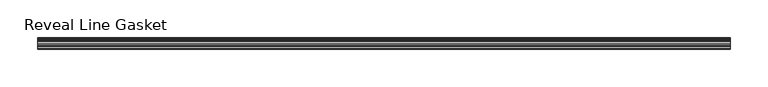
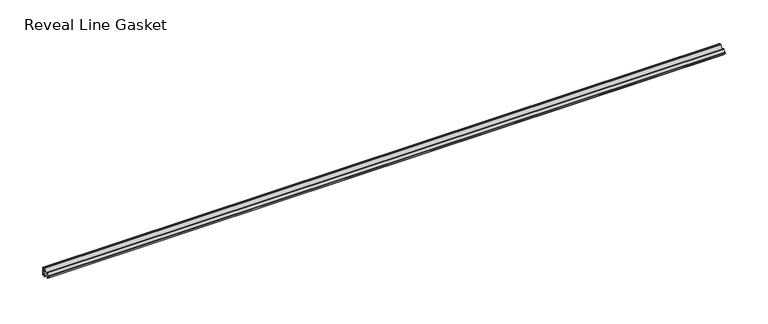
"""IFC4 building model written with IfcOpenShell, lengths in millimetres: proxy geometry, Accessories-Teknion-FHGR-AI_Healthcare-Reveal_Line_Gasket(Horizontal)-R2022 : Reveal Line Gasket."""

import ifcopenshell
import ifcopenshell.guid

model = None  # the IFC model being written
_history = None  # IfcOwnerHistory: only IFC2X3 demands one
_inside = {}  # id of a spatial element -> (the spatial element, [elements in it])
_under = {}  # id of a project, library or spatial element -> (it, [spatial elements below it])
_declared = {}  # id of a project -> (the project, [libraries it declares])
_typed = {}  # id of a type object -> (the type object, [elements of that type])
_made_of = {}  # id of a material, layer set ... -> (it, [elements and type objects made of it])


def new_model(schema):
    """Start an empty IFC model of exactly this schema.

    Asked for "IFC4X3", IfcOpenShell would pick the latest addendum, in which some entities
    have other attributes; the version numbers below select the first issue.
    IFC2X3 requires an IfcOwnerHistory on every rooted entity: one is made here for all.
    """
    global model, _history
    if schema == "IFC4X3":
        model = ifcopenshell.file(schema_version=(4, 3, 0, 0))
    else:
        model = ifcopenshell.file(schema=schema)
    _inside.clear()
    _under.clear()
    _declared.clear()
    _typed.clear()
    _made_of.clear()
    _history = None
    if model.schema == "IFC2X3":
        org = make("IfcOrganization", Name="unknown")
        user = make(
            "IfcPersonAndOrganization",
            ThePerson=make("IfcPerson", FamilyName="unknown"),
            TheOrganization=org,
        )
        app = make(
            "IfcApplication",
            ApplicationDeveloper=org,
            Version="unknown",
            ApplicationFullName="unknown",
            ApplicationIdentifier="unknown",
        )
        _history = make(
            "IfcOwnerHistory",
            OwningUser=user,
            OwningApplication=app,
            ChangeAction="ADDED",
            CreationDate=0,
        )
    return model


def make(cls, **values):
    """One entity of the class cls with the attributes given. An attribute that is None is left unset."""
    return model.create_entity(
        cls, **{name: value for name, value in values.items() if value is not None}
    )


def rooted(cls, **values):
    """An entity with a GlobalId (a new one), such as an element, a storey or a relation."""
    return make(cls, GlobalId=ifcopenshell.guid.new(), OwnerHistory=_history, **values)


def si_unit(unit_type, name, prefix=None):
    """IfcSIUnit, for example si_unit("LENGTHUNIT", "METRE", prefix="MILLI")."""
    return make("IfcSIUnit", UnitType=unit_type, Prefix=prefix, Name=name)


def assignment(units):
    """IfcUnitAssignment: the units of a project."""
    return None if units is None else make("IfcUnitAssignment", Units=units)


def point(xyz):
    """IfcCartesianPoint."""
    return None if xyz is None else make("IfcCartesianPoint", Coordinates=xyz)


def direction(xyz):
    """IfcDirection."""
    return None if xyz is None else make("IfcDirection", DirectionRatios=xyz)


def frame(location, z_axis=None, x_axis=None):
    """IfcAxis2Placement3D, a coordinate frame: its origin and axes. An axis left out is left unset."""
    return make(
        "IfcAxis2Placement3D",
        Location=point(location),
        Axis=direction(z_axis),
        RefDirection=direction(x_axis),
    )


def frame_2d(location, x_axis=None):
    """IfcAxis2Placement2D, a coordinate frame in the plane: its origin and x axis."""
    return make(
        "IfcAxis2Placement2D", Location=point(location), RefDirection=direction(x_axis)
    )


def origin():
    """The frame at (0, 0, 0) with its axes left unset."""
    return frame((0.0, 0.0, 0.0))


def place(relative_to, where):
    """IfcLocalPlacement: puts the frame where relative to a parent placement (None: the world)."""
    return make(
        "IfcLocalPlacement", PlacementRelTo=relative_to, RelativePlacement=where
    )


def context(
    kind, dimensions, precision=None, world=None, true_north=None, identifier=None
):
    """IfcGeometricRepresentationContext, for example the 3D "Model" context."""
    return make(
        "IfcGeometricRepresentationContext",
        ContextIdentifier=identifier,
        ContextType=kind,
        CoordinateSpaceDimension=dimensions,
        Precision=precision,
        WorldCoordinateSystem=world,
        TrueNorth=true_north,
    )


def project(units=None, contexts=None):
    """IfcProject with its units and contexts."""
    return rooted(
        "IfcProject",
        Name="project",
        RepresentationContexts=contexts,
        UnitsInContext=assignment(units),
    )


def spatial(cls, under=None, at=None, **own):
    """A site, building, storey or space (cls), placed at a placement, below another one or the project."""
    s = rooted(cls, ObjectPlacement=at, **own)
    if under is not None:
        _under.setdefault(under.id(), (under, []))[1].append(s)
    return s


def polyline(points):
    """IfcPolyline through the points."""
    return make("IfcPolyline", Points=[point(p) for p in points])


def circle_curve(where, radius):
    """IfcCircle in the frame where."""
    return make("IfcCircle", Position=where, Radius=radius)


def trimmed(basis, trim1, trim2, sense, master):
    """IfcTrimmedCurve: the piece of a basis curve between two trims."""
    return make(
        "IfcTrimmedCurve",
        BasisCurve=basis,
        Trim1=trim1,
        Trim2=trim2,
        SenseAgreement=sense,
        MasterRepresentation=master,
    )


def segment(curve, same_sense, transition):
    """IfcCompositeCurveSegment."""
    return make(
        "IfcCompositeCurveSegment",
        Transition=transition,
        SameSense=same_sense,
        ParentCurve=curve,
    )


def composite_curve(segments, self_intersect=None):
    """IfcCompositeCurve: segments joined end to end."""
    return make("IfcCompositeCurve", Segments=segments, SelfIntersect=self_intersect)


def outline(outer, holes=None, kind="AREA"):
    """IfcArbitraryClosedProfileDef: a profile drawn as a closed curve; with holes, ...WithVoids."""
    if holes is None:
        return make("IfcArbitraryClosedProfileDef", ProfileType=kind, OuterCurve=outer)
    return make(
        "IfcArbitraryProfileDefWithVoids",
        ProfileType=kind,
        OuterCurve=outer,
        InnerCurves=holes,
    )


def extrude(swept, where, along, depth):
    """IfcExtrudedAreaSolid: the profile swept, set in the frame where, extruded along a direction by depth."""
    return make(
        "IfcExtrudedAreaSolid",
        SweptArea=swept,
        Position=where,
        ExtrudedDirection=direction(along),
        Depth=depth,
    )


def shape(context_of_items, identifier, shape_type, items):
    """IfcShapeRepresentation: the items that make up one representation, for example the "Body"."""
    return make(
        "IfcShapeRepresentation",
        ContextOfItems=context_of_items,
        RepresentationIdentifier=identifier,
        RepresentationType=shape_type,
        Items=items,
    )


def source(mapping_origin, context_of_items, identifier, shape_type, items):
    """IfcRepresentationMap: a shape defined once, which mapped items show again and again."""
    return make(
        "IfcRepresentationMap",
        MappingOrigin=mapping_origin,
        MappedRepresentation=shape(context_of_items, identifier, shape_type, items),
    )


def transform(
    local_origin,
    x_axis=None,
    y_axis=None,
    z_axis=None,
    scale=None,
    scale2=None,
    scale3=None,
    uniform=True,
):
    """IfcCartesianTransformationOperator3D, or its non-uniform kind. x_axis, y_axis, z_axis: its Axis1, 2, 3."""
    if uniform:
        return make(
            "IfcCartesianTransformationOperator3D",
            Axis1=direction(x_axis),
            Axis2=direction(y_axis),
            LocalOrigin=point(local_origin),
            Scale=scale,
            Axis3=direction(z_axis),
        )
    return make(
        "IfcCartesianTransformationOperator3DnonUniform",
        Axis1=direction(x_axis),
        Axis2=direction(y_axis),
        LocalOrigin=point(local_origin),
        Scale=scale,
        Axis3=direction(z_axis),
        Scale2=scale2,
        Scale3=scale3,
    )


def mapped(mapping_source, mapping_target):
    """IfcMappedItem: shows the shape of a source again, moved by a transform."""
    return make(
        "IfcMappedItem", MappingSource=mapping_source, MappingTarget=mapping_target
    )


def made_of(thing, what):
    """Note that an element or type object is made of a material, layer set ...; save() writes the relation."""
    if what is not None:
        _made_of.setdefault(what.id(), (what, []))[1].append(thing)
    return thing


def element(
    cls,
    number,
    at=None,
    inside=None,
    cuts=None,
    type_object=None,
    material=None,
    context=None,
    identifier="Body",
    shape_type=None,
    held_by="IfcProductDefinitionShape",
    body=None,
    shapes=None,
    **own,
):
    """One element of the class cls, such as IfcWall. Its Tag is "e" and its number.

    at: its placement. inside: the storey or other place that contains it. cuts: it is an
    opening in that element (IfcRelVoidsElement). A single representation is given by context,
    identifier, shape_type and body (its items); several are given by shapes. held_by: the class
    of the entity that holds the representations. save() writes the other relations.
    """
    e = rooted(cls, Tag="e%d" % number, ObjectPlacement=at, **own)
    if body is not None:
        shapes = [shape(context, identifier, shape_type, body)]
    if shapes is not None:
        e.Representation = make(held_by, Representations=shapes)
    if inside is not None:
        _inside.setdefault(inside.id(), (inside, []))[1].append(e)
    if cuts is not None:
        rooted(
            "IfcRelVoidsElement", RelatingBuildingElement=cuts, RelatedOpeningElement=e
        )
    if type_object is not None:
        _typed.setdefault(type_object.id(), (type_object, []))[1].append(e)
    return made_of(e, material)


def aggregate(whole, parts):
    """IfcRelAggregates: a whole, such as a stair, and the parts it consists of."""
    return rooted("IfcRelAggregates", RelatingObject=whole, RelatedObjects=parts)


def save(model, path):
    """Write the relations noted so far, then the file.

    IfcRelAggregates (storeys below a building ...), IfcRelContainedInSpatialStructure (elements
    in a storey), IfcRelDefinesByType, IfcRelAssociatesMaterial and IfcRelDeclares: one each for
    every whole, place, type object, material and project.
    """
    for whole, parts in _under.values():
        aggregate(whole, parts)
    for where, things in _inside.values():
        rooted(
            "IfcRelContainedInSpatialStructure",
            RelatedElements=things,
            RelatingStructure=where,
        )
    for kind, things in _typed.values():
        rooted("IfcRelDefinesByType", RelatedObjects=things, RelatingType=kind)
    for what, things in _made_of.values():
        rooted("IfcRelAssociatesMaterial", RelatedObjects=things, RelatingMaterial=what)
    for by, libraries in _declared.values():
        rooted("IfcRelDeclares", RelatingContext=by, RelatedDefinitions=libraries)
    model.write(path)


def reveal_line_gasket_807b9065(model_context):
    return source(origin(), model_context, "Body", "SweptSolid", [
        extrude(outline(composite_curve([segment(polyline([(7.6326998, 1603.2), (7.6326998, 1597.2), (7.4091917, 1596.2445073), (6.8813059, 1595.3115316)]), True, "CONTINUOUS"), segment(trimmed(circle_curve(frame_2d((6.5243141, 1595.5135207)), 0.4101739), [point((6.8813059, 1595.3115316))], [point((6.1246704, 1595.6058653))], False, "CARTESIAN"), True, "CONTINUOUS"), segment(polyline([(6.1246704, 1595.6058653), (6.3626997, 1597.3020914), (6.3626997, 1599.3345473)]), True, "CONTINUOUS"), segment(trimmed(circle_curve(frame_2d((5.6959605, 1598.9180742)), 0.786124), [point((6.3626997, 1599.3345473))], [point((5.0926996, 1599.422125))], True, "CARTESIAN"), True, "CONTINUOUS"), segment(polyline([(5.0926996, 1599.422125), (0.7492996, 1599.422125), (3.7293824, 1594.2604705)]), True, "CONTINUOUS"), segment(trimmed(circle_curve(frame_2d((3.3132479, 1594.1950239)), 0.4212495), [point((3.7293824, 1594.2604705))], [point((3.0485022, 1593.8673642))], False, "CARTESIAN"), True, "CONTINUOUS"), segment(polyline([(3.0485022, 1593.8673642), (-0.5742594, 1599.422125), (-4.8262978, 1599.422125), (-3.1660374, 1596.5464703)]), True, "CONTINUOUS"), segment(trimmed(circle_curve(frame_2d((-3.5978728, 1596.4881145)), 0.4357605), [point((-3.1660374, 1596.5464703))], [point((-3.864328, 1596.1433119))], False, "CARTESIAN"), True, "CONTINUOUS"), segment(polyline([(-3.864328, 1596.1433119), (-6.1944059, 1599.422125), (-7.6326998, 1599.422125), (-7.6326998, 1600.977875), (-6.1944059, 1600.977875), (-3.864328, 1604.2566881)]), True, "CONTINUOUS"), segment(trimmed(circle_curve(frame_2d((-3.5978728, 1603.9118855)), 0.4357605), [point((-3.864328, 1604.2566881))], [point((-3.1660374, 1603.8535297))], False, "CARTESIAN"), True, "CONTINUOUS"), segment(polyline([(-3.1660374, 1603.8535297), (-4.8262978, 1600.977875), (-0.5742594, 1600.977875), (3.0485022, 1606.5326358)]), True, "CONTINUOUS"), segment(trimmed(circle_curve(frame_2d((3.3132479, 1606.2049761)), 0.4212495), [point((3.0485022, 1606.5326358))], [point((3.7293824, 1606.1395295))], False, "CARTESIAN"), True, "CONTINUOUS"), segment(polyline([(3.7293824, 1606.1395295), (0.7492996, 1600.977875), (5.0926996, 1600.977875)]), True, "CONTINUOUS"), segment(trimmed(circle_curve(frame_2d((5.6959605, 1601.4819258)), 0.786124), [point((5.0926996, 1600.977875))], [point((6.3626997, 1601.0654527))], True, "CARTESIAN"), True, "CONTINUOUS"), segment(polyline([(6.3626997, 1601.0654527), (6.3626997, 1603.0979086), (6.1246704, 1604.7941347)]), True, "CONTINUOUS"), segment(trimmed(circle_curve(frame_2d((6.5243141, 1604.8864793)), 0.4101739), [point((6.1246704, 1604.7941347))], [point((6.8813059, 1605.0884684))], False, "CARTESIAN"), True, "CONTINUOUS"), segment(polyline([(6.8813059, 1605.0884684), (7.4091917, 1604.1554927), (7.6326998, 1603.2)]), True, "CONTINUOUS")], self_intersect=False)), frame((-459.2490674, 0.0, 0.0), z_axis=(1.0, 0.0, 0.0), x_axis=(0.0, 1.0, 0.0)), (0.0, 0.0, 1.0), 918.4981348),
    ])


if __name__ == "__main__":
    model = new_model("IFC4")
    model_context = context("Model", 3, world=origin())
    ifc_project = project(units=[si_unit("LENGTHUNIT", "METRE", prefix="MILLI")], contexts=[model_context])
    site = spatial("IfcSite", under=ifc_project)
    building = spatial("IfcBuilding", under=site)
    placement = place(None, origin())
    reveal_line_gasket_shape = reveal_line_gasket_807b9065(model_context)
    element("IfcBuildingElementProxy", 1, Name="Accessories-Teknion-FHGR-AI_Healthcare-Reveal_Line_Gasket(Horizontal)-R2022 : Reveal Line Gasket", ObjectType="Accessories-Teknion-FHGR-AI_Healthcare-Reveal_Line_Gasket(Horizontal)-R2022 : Reveal Line Gasket", at=placement, inside=building, context=model_context, shape_type="MappedRepresentation", body=[
        mapped(reveal_line_gasket_shape, transform((0.0, 0.0, 0.0), x_axis=(1.0, 0.0, 0.0), y_axis=(0.0, 1.0, 0.0), z_axis=(0.0, 0.0, 1.0))),
    ])
    save(model, "model.ifc")
